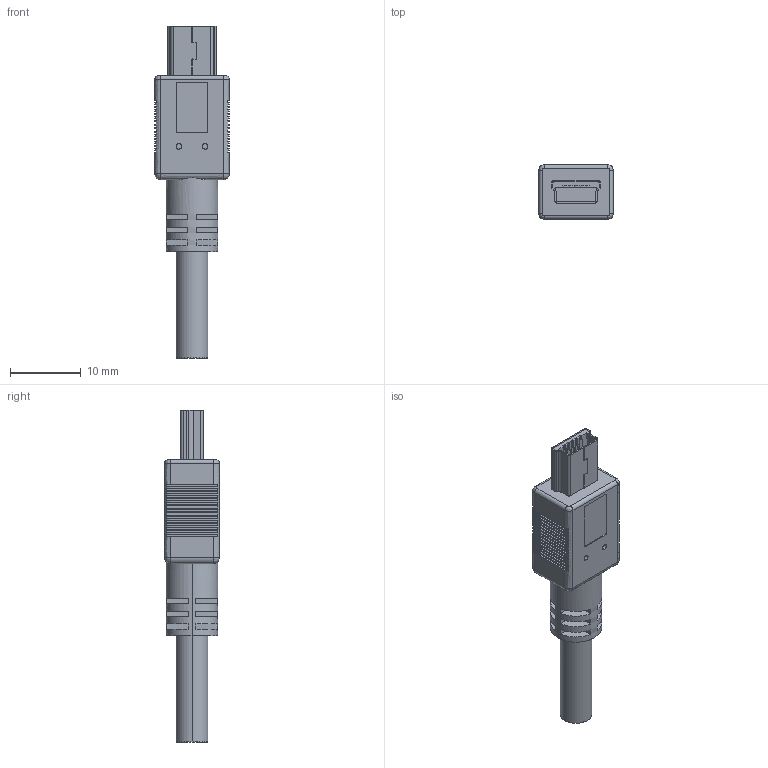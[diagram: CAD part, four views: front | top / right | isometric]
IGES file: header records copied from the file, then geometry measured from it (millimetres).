
Start section: SolidWorks IGES file using analytic representation for surfaces
Global section: file name: D:\3D-Lib\瞪濠睡ヶ\晦顫\USB-Mini B_Cable.IGS; native system: SolidWorks 2012; preprocessor: SolidWorks 2012; author: Ildong; date: 131127.132134; units: millimetre
Bounding box: 10.5 x 7.7 x 46.9 mm (x, y, z)
Surface area: 1811.9 mm2 (no closed solid volume)
Topology: 0 solids, 0 shells, 631 faces, 5406 edges, 5402 vertices
Faces by surface type: bspline 532, revolution 99
